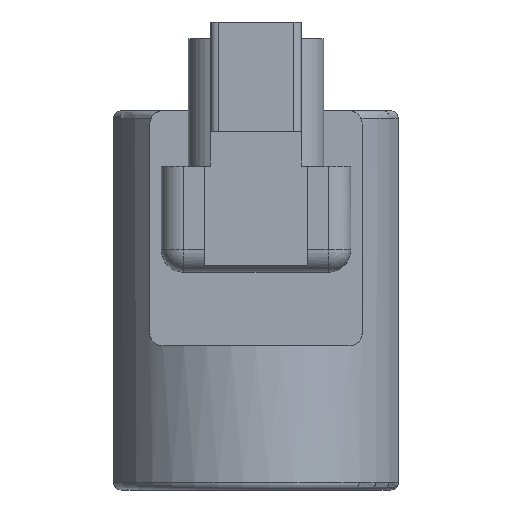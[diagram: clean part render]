
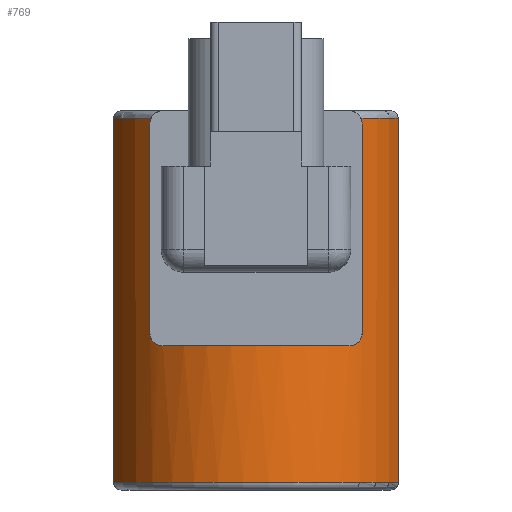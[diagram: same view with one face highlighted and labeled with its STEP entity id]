
A CAD part, left-side view. The second image highlights one B-rep face of the part: STEP entity #769.
In plain terms, the highlighted cylindrical face has radius 19.5 mm (diameter 39 mm), a partial arc.
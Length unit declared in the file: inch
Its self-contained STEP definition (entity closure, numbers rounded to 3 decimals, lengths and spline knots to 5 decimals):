
#233=CARTESIAN_POINT('',(6.25023,3.44753,-1.88976));
#234=VERTEX_POINT('',#233);
#249=CARTESIAN_POINT('',(6.25023,3.44753,0.));
#250=VERTEX_POINT('',#249);
#257=CARTESIAN_POINT('',(6.25023,3.44753,0.));
#258=DIRECTION('',(0.0,0.0,-1.0));
#259=VECTOR('',#258,1.88976);
#260=LINE('',#257,#259);
#261=EDGE_CURVE('',#250,#234,#260,.T.);
#284=CARTESIAN_POINT('',(5.91993,3.64118,0.));
#285=VERTEX_POINT('',#284);
#297=CARTESIAN_POINT('',(6.4611,4.18572,0.));
#298=DIRECTION('',(0.0,0.0,1.0));
#299=DIRECTION('',(-1.0,0.0,0.0));
#300=AXIS2_PLACEMENT_3D('',#297,#298,#299);
#301=CIRCLE('',#300,0.76772);
#302=EDGE_CURVE('',#285,#250,#301,.T.);
#417=CARTESIAN_POINT('',(6.25023,4.92391,0.));
#418=VERTEX_POINT('',#417);
#504=CARTESIAN_POINT('',(6.25023,4.92391,-1.88976));
#505=VERTEX_POINT('',#504);
#514=CARTESIAN_POINT('',(6.25023,4.92391,0.));
#515=DIRECTION('',(0.0,0.0,-1.0));
#516=VECTOR('',#515,1.88976);
#517=LINE('',#514,#516);
#518=EDGE_CURVE('',#418,#505,#517,.T.);
#627=CARTESIAN_POINT('',(6.4611,4.18572,-1.88976));
#628=DIRECTION('',(0.0,0.0,-1.0));
#629=DIRECTION('',(-1.0,0.0,0.0));
#630=AXIS2_PLACEMENT_3D('',#627,#628,#629);
#631=CIRCLE('',#630,0.76772);
#632=EDGE_CURVE('',#234,#505,#631,.T.);
#666=CARTESIAN_POINT('',(6.4611,4.18572,0.03937));
#667=DIRECTION('',(0.0,0.0,-1.0));
#668=DIRECTION('',(-1.0,0.0,0.0));
#669=AXIS2_PLACEMENT_3D('',#666,#667,#668);
#670=CYLINDRICAL_SURFACE('',#669,0.76772);
#671=CARTESIAN_POINT('',(5.9267,3.63454,-0.02953));
#672=VERTEX_POINT('',#671);
#673=CARTESIAN_POINT('',(5.91993,3.64118,0.));
#674=CARTESIAN_POINT('',(5.92056,3.64056,-0.00133));
#675=CARTESIAN_POINT('',(5.92116,3.63996,-0.00268));
#676=CARTESIAN_POINT('',(5.92331,3.63784,-0.00802));
#677=CARTESIAN_POINT('',(5.92457,3.6366,-0.01222));
#678=CARTESIAN_POINT('',(5.92627,3.63495,-0.0208));
#679=CARTESIAN_POINT('',(5.9267,3.63454,-0.0252));
#680=CARTESIAN_POINT('',(5.9267,3.63454,-0.02953));
#681=B_SPLINE_CURVE_WITH_KNOTS('',3,(#673,#674,#675,#676,#677,#678,#679,#680),.UNSPECIFIED.,.F.,.U.,(4,2,2,4),(-0.77574,-0.66013,-0.33006,0.0),.UNSPECIFIED.);
#682=EDGE_CURVE('',#285,#672,#681,.T.);
#683=ORIENTED_EDGE('',*,*,#682,.T.);
#684=CARTESIAN_POINT('',(5.9267,3.63454,-1.11221));
#685=VERTEX_POINT('',#684);
#686=CARTESIAN_POINT('',(5.9267,3.63454,-0.02953));
#687=DIRECTION('',(0.0,0.0,-1.0));
#688=VECTOR('',#687,1.08268);
#689=LINE('',#686,#688);
#690=EDGE_CURVE('',#672,#685,#689,.T.);
#691=ORIENTED_EDGE('',*,*,#690,.T.);
#692=CARTESIAN_POINT('',(5.86378,3.70343,-1.1811));
#693=VERTEX_POINT('',#692);
#694=CARTESIAN_POINT('',(5.9267,3.63454,-1.11221));
#695=CARTESIAN_POINT('',(5.9267,3.63454,-1.11654));
#696=CARTESIAN_POINT('',(5.92627,3.63495,-1.12093));
#697=CARTESIAN_POINT('',(5.92457,3.6366,-1.12952));
#698=CARTESIAN_POINT('',(5.92331,3.63784,-1.13371));
#699=CARTESIAN_POINT('',(5.91853,3.64256,-1.14557));
#700=CARTESIAN_POINT('',(5.91399,3.6471,-1.15254));
#701=CARTESIAN_POINT('',(5.90295,3.65852,-1.16538));
#702=CARTESIAN_POINT('',(5.89525,3.66673,-1.17133));
#703=CARTESIAN_POINT('',(5.87936,3.68461,-1.1792));
#704=CARTESIAN_POINT('',(5.87117,3.69428,-1.1811));
#705=CARTESIAN_POINT('',(5.86378,3.70343,-1.1811));
#706=B_SPLINE_CURVE_WITH_KNOTS('',3,(#694,#695,#696,#697,#698,#699,#700,#701,#702,#703,#704,#705),.UNSPECIFIED.,.F.,.U.,(4,2,2,2,2,4),(0.0,0.33006,0.66013,1.32026,2.21635,3.11244),.UNSPECIFIED.);
#707=EDGE_CURVE('',#685,#693,#706,.T.);
#708=ORIENTED_EDGE('',*,*,#707,.T.);
#709=CARTESIAN_POINT('',(5.86378,4.668,-1.1811));
#710=VERTEX_POINT('',#709);
#711=CARTESIAN_POINT('',(6.4611,4.18572,-1.1811));
#712=DIRECTION('',(0.0,0.0,-1.0));
#713=DIRECTION('',(-1.0,0.0,0.0));
#714=AXIS2_PLACEMENT_3D('',#711,#712,#713);
#715=CIRCLE('',#714,0.76772);
#716=EDGE_CURVE('',#693,#710,#715,.T.);
#717=ORIENTED_EDGE('',*,*,#716,.T.);
#718=CARTESIAN_POINT('',(5.9267,4.7369,-1.11221));
#719=VERTEX_POINT('',#718);
#720=CARTESIAN_POINT('',(5.86378,4.668,-1.1811));
#721=CARTESIAN_POINT('',(5.87117,4.67715,-1.1811));
#722=CARTESIAN_POINT('',(5.87936,4.68683,-1.1792));
#723=CARTESIAN_POINT('',(5.89525,4.7047,-1.17133));
#724=CARTESIAN_POINT('',(5.90295,4.71292,-1.16538));
#725=CARTESIAN_POINT('',(5.91399,4.72433,-1.15254));
#726=CARTESIAN_POINT('',(5.91853,4.72888,-1.14557));
#727=CARTESIAN_POINT('',(5.92331,4.7336,-1.13371));
#728=CARTESIAN_POINT('',(5.92457,4.73483,-1.12952));
#729=CARTESIAN_POINT('',(5.92627,4.73648,-1.12093));
#730=CARTESIAN_POINT('',(5.9267,4.7369,-1.11654));
#731=CARTESIAN_POINT('',(5.9267,4.7369,-1.11221));
#732=B_SPLINE_CURVE_WITH_KNOTS('',3,(#720,#721,#722,#723,#724,#725,#726,#727,#728,#729,#730,#731),.UNSPECIFIED.,.F.,.U.,(4,2,2,2,2,4),(-3.11244,-2.21635,-1.32026,-0.66013,-0.33006,0.0),.UNSPECIFIED.);
#733=EDGE_CURVE('',#710,#719,#732,.T.);
#734=ORIENTED_EDGE('',*,*,#733,.T.);
#735=CARTESIAN_POINT('',(5.9267,4.7369,-0.02953));
#736=VERTEX_POINT('',#735);
#737=CARTESIAN_POINT('',(5.9267,4.7369,-1.11221));
#738=DIRECTION('',(0.0,0.0,1.0));
#739=VECTOR('',#738,1.08268);
#740=LINE('',#737,#739);
#741=EDGE_CURVE('',#719,#736,#740,.T.);
#742=ORIENTED_EDGE('',*,*,#741,.T.);
#743=CARTESIAN_POINT('',(5.91993,4.73025,0.));
#744=VERTEX_POINT('',#743);
#745=CARTESIAN_POINT('',(5.9267,4.7369,-0.02953));
#746=CARTESIAN_POINT('',(5.9267,4.7369,-0.0252));
#747=CARTESIAN_POINT('',(5.92627,4.73648,-0.0208));
#748=CARTESIAN_POINT('',(5.92457,4.73483,-0.01222));
#749=CARTESIAN_POINT('',(5.92331,4.7336,-0.00802));
#750=CARTESIAN_POINT('',(5.92116,4.73147,-0.00268));
#751=CARTESIAN_POINT('',(5.92056,4.73088,-0.00133));
#752=CARTESIAN_POINT('',(5.91993,4.73025,0.));
#753=B_SPLINE_CURVE_WITH_KNOTS('',3,(#745,#746,#747,#748,#749,#750,#751,#752),.UNSPECIFIED.,.F.,.U.,(4,2,2,4),(0.0,0.33006,0.66013,0.77574),.UNSPECIFIED.);
#754=EDGE_CURVE('',#736,#744,#753,.T.);
#755=ORIENTED_EDGE('',*,*,#754,.T.);
#756=CARTESIAN_POINT('',(6.4611,4.18572,0.));
#757=DIRECTION('',(0.0,0.0,1.0));
#758=DIRECTION('',(-1.0,0.0,0.0));
#759=AXIS2_PLACEMENT_3D('',#756,#757,#758);
#760=CIRCLE('',#759,0.76772);
#761=EDGE_CURVE('',#418,#744,#760,.T.);
#762=ORIENTED_EDGE('',*,*,#761,.F.);
#763=ORIENTED_EDGE('',*,*,#518,.T.);
#764=ORIENTED_EDGE('',*,*,#632,.F.);
#765=ORIENTED_EDGE('',*,*,#261,.F.);
#766=ORIENTED_EDGE('',*,*,#302,.F.);
#767=EDGE_LOOP('',(#683,#691,#708,#717,#734,#742,#755,#762,#763,#764,#765,#766));
#768=FACE_OUTER_BOUND('',#767,.T.);
#769=ADVANCED_FACE('',(#768),#670,.T.);
